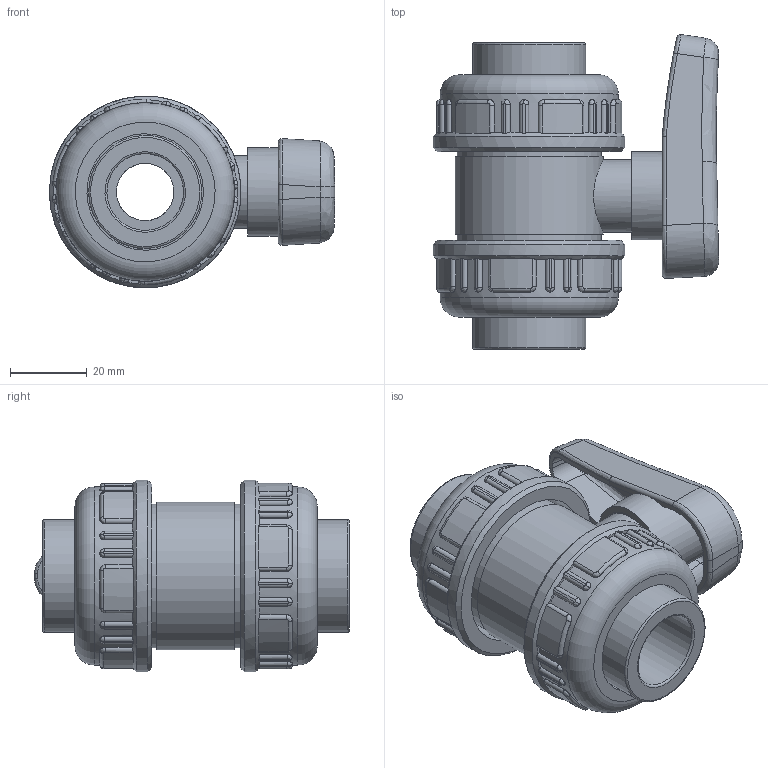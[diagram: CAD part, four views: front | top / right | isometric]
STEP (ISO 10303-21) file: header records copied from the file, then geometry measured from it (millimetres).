
FILE_DESCRIPTION(/* description */ (''),/* implementation_level */ '2;1');
FILE_NAME(/* name */ 'C:\Users\POLYPIPE\Desktop\DATASET INVENTOR\LIBRERIA EFFAST\3D_VALVOLE\3D_VALVOLE A SFERA\3D_BV\3D_BDRBVD\3D_BDRBVD0200.stp',/* time_stamp */ '2018-01-23T15:46:38+01:00',/* author */ ('POLYPIPE'),/* organization */ (''),/* preprocessor_version */ 'ST-DEVELOPER v16.1',/* originating_system */ 'Autodesk Inventor 2016',/* authorisation */ '');
FILE_SCHEMA (('CONFIG_CONTROL_DESIGN'));
Length unit declared in the file: centimetre
Products named in the file (1): 3D_BDRBVD0200
Bounding box: 74.42 x 82.11 x 49.99 mm (x, y, z)
Volume: 94834.6 mm3; surface area: 40198.1 mm2
Topology: 3 solids, 3 shells, 527 faces, 1354 edges, 851 vertices
Faces by surface type: plane 175, cylinder 166, bspline 162, torus 20, cone 4
Full cylindrical faces by diameter (mm): 12 x1, 15 x3, 18.1 x1, 19 x1, 20 x2, 23 x1, 25.6 x1, 28.8 x1, 29.5 x2, 30.4 x2, 35.4 x2, 37.5 x2, 38.6 x1, 40.4 x2, 46.5 x2, 50 x2
Entity records: 60429 total; most frequent: CARTESIAN_POINT 48017, ORIENTED_EDGE 2608, DIRECTION 2195, EDGE_CURVE 1304, AXIS2_PLACEMENT_3D 844, VERTEX_POINT 839, EDGE_LOOP 591, STYLED_ITEM 530
